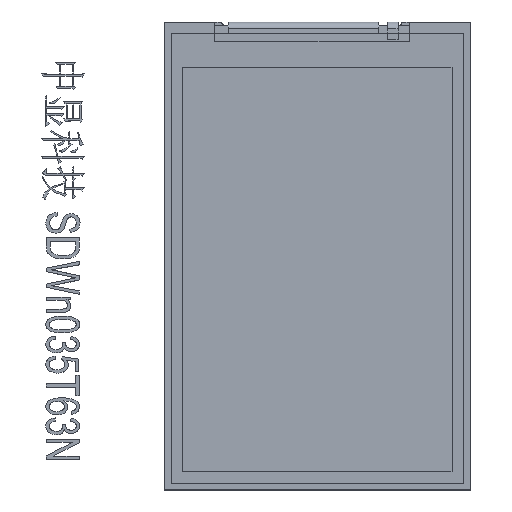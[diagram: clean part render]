
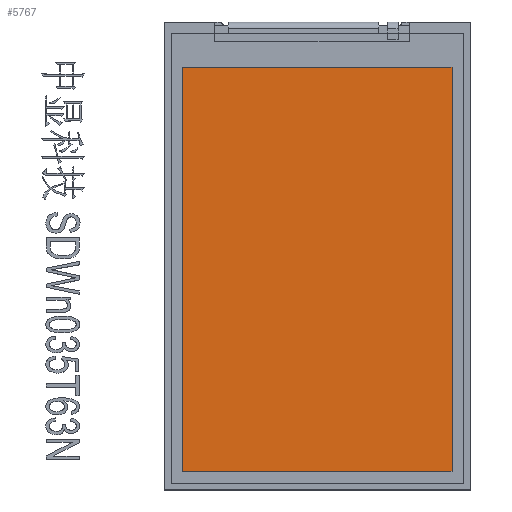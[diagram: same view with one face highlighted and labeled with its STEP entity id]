
A CAD part, top view. The second image highlights one B-rep face of the part: STEP entity #5767.
In plain terms, the highlighted planar face has unit normal (0, 0, 1).
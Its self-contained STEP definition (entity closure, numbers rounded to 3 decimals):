
#5767=ADVANCED_FACE('',(#7349),#6596,.T.);
#6596=PLANE('',#18903);
#7349=FACE_OUTER_BOUND('',#8182,.T.);
#8182=EDGE_LOOP('',(#10714,#10715,#10716,#10717));
#10714=ORIENTED_EDGE('',*,*,#14725,.T.);
#10715=ORIENTED_EDGE('',*,*,#14729,.T.);
#10716=ORIENTED_EDGE('',*,*,#14732,.T.);
#10717=ORIENTED_EDGE('',*,*,#14734,.T.);
#13082=VERTEX_POINT('',#24505);
#13083=VERTEX_POINT('',#24507);
#13085=VERTEX_POINT('',#24513);
#13087=VERTEX_POINT('',#24519);
#14725=EDGE_CURVE('',#13083,#13082,#16612,.T.);
#14729=EDGE_CURVE('',#13082,#13085,#16616,.T.);
#14732=EDGE_CURVE('',#13085,#13087,#16619,.T.);
#14734=EDGE_CURVE('',#13087,#13083,#16621,.T.);
#16612=LINE('',#24506,#17963);
#16616=LINE('',#24514,#17967);
#16619=LINE('',#24520,#17970);
#16621=LINE('',#24523,#17972);
#17963=VECTOR('',#21308,1.);
#17967=VECTOR('',#21314,1.);
#17970=VECTOR('',#21319,1.);
#17972=VECTOR('',#21323,1.);
#18903=AXIS2_PLACEMENT_3D('',#24525,#21326,#21327);
#21308=DIRECTION('',(0.,-1.,0.));
#21314=DIRECTION('',(1.,0.,0.));
#21319=DIRECTION('',(0.,1.,0.));
#21323=DIRECTION('',(-1.,0.,0.));
#21326=DIRECTION('',(0.,0.,1.));
#21327=DIRECTION('',(1.,0.,0.));
#24505=CARTESIAN_POINT('',(-10.537,-43.2,3.06));
#24506=CARTESIAN_POINT('',(-10.537,30.24,3.06));
#24507=CARTESIAN_POINT('',(-10.537,30.24,3.06));
#24513=CARTESIAN_POINT('',(38.423,-43.2,3.06));
#24514=CARTESIAN_POINT('',(-10.537,-43.2,3.06));
#24519=CARTESIAN_POINT('',(38.423,30.24,3.06));
#24520=CARTESIAN_POINT('',(38.423,-43.2,3.06));
#24523=CARTESIAN_POINT('',(38.423,30.24,3.06));
#24525=CARTESIAN_POINT('',(0.,0.,3.06));
